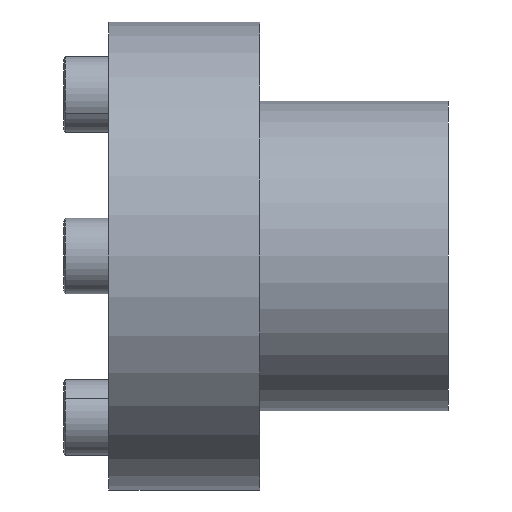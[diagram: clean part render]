
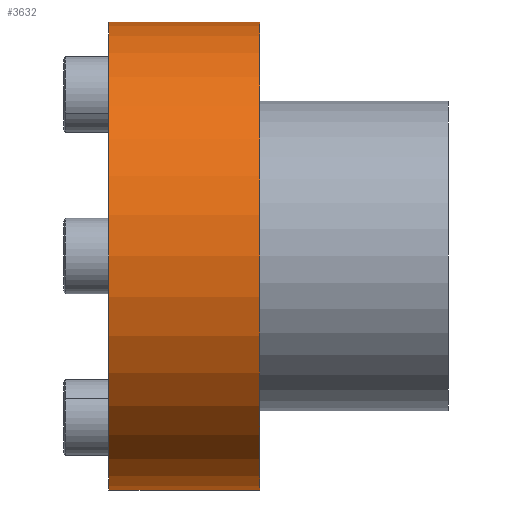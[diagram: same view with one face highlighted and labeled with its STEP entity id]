
A CAD part, front view. The second image highlights one B-rep face of the part: STEP entity #3632.
In plain terms, the highlighted cylindrical face has radius 31 mm (diameter 62 mm), a partial arc.
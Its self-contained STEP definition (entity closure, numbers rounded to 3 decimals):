
#2359 = CARTESIAN_POINT ( 'NONE',  ( 0., 0., -31. ) ) ;
#2360 = DIRECTION ( 'NONE',  ( -1., 0., 0. ) ) ;
#2361 = VECTOR ( 'NONE', #2360, 1000. ) ;
#2362 = CARTESIAN_POINT ( 'NONE',  ( 0., 0., -31. ) ) ;
#2363 = LINE ( 'NONE', #2362, #2361 ) ;
#2364 = CARTESIAN_POINT ( 'NONE',  ( 20., 0., -31. ) ) ;
#2365 = CARTESIAN_POINT ( 'NONE',  ( 20., 0., 31. ) ) ;
#2376 = DIRECTION ( 'NONE',  ( 0., 0., 1. ) ) ;
#2377 = DIRECTION ( 'NONE',  ( -1., 0., 0. ) ) ;
#2378 = CARTESIAN_POINT ( 'NONE',  ( 0., 0., 0. ) ) ;
#2379 = AXIS2_PLACEMENT_3D ( 'NONE', #2378, #2377, #2376 ) ;
#2380 = CIRCLE ( 'NONE', #2379, 31. ) ;
#2454 = DIRECTION ( 'NONE',  ( -1., 0., 0. ) ) ;
#2455 = VECTOR ( 'NONE', #2454, 1000. ) ;
#2456 = CARTESIAN_POINT ( 'NONE',  ( 0., 0., 31. ) ) ;
#2457 = LINE ( 'NONE', #2456, #2455 ) ;
#2458 = CARTESIAN_POINT ( 'NONE',  ( 0., 0., 31. ) ) ;
#2606 = DIRECTION ( 'NONE',  ( 0., 0., 1. ) ) ;
#2607 = DIRECTION ( 'NONE',  ( -1., 0., 0. ) ) ;
#2608 = CARTESIAN_POINT ( 'NONE',  ( 0., 0., 0. ) ) ;
#2609 = AXIS2_PLACEMENT_3D ( 'NONE', #2608, #2607, #2606 ) ;
#2611 = CYLINDRICAL_SURFACE ( 'NONE', #2609, 31. ) ;
#2612 = FACE_OUTER_BOUND ( 'NONE', #3631, .T. ) ;
#2794 = DIRECTION ( 'NONE',  ( 0., 0., 1. ) ) ;
#2795 = DIRECTION ( 'NONE',  ( -1., 0., 0. ) ) ;
#2796 = CARTESIAN_POINT ( 'NONE',  ( 20., 0., 0. ) ) ;
#2797 = AXIS2_PLACEMENT_3D ( 'NONE', #2796, #2795, #2794 ) ;
#2798 = CIRCLE ( 'NONE', #2797, 31. ) ;
#3405 = ORIENTED_EDGE ( 'NONE', *, *, #3472, .F. ) ;
#3459 = EDGE_CURVE ( 'NONE', #3473, #3476, #2380, .T. ) ;
#3469 = VERTEX_POINT ( 'NONE', #2365 ) ;
#3470 = VERTEX_POINT ( 'NONE', #2364 ) ;
#3472 = EDGE_CURVE ( 'NONE', #3470, #3473, #2363, .T. ) ;
#3473 = VERTEX_POINT ( 'NONE', #2359 ) ;
#3476 = VERTEX_POINT ( 'NONE', #2458 ) ;
#3478 = EDGE_CURVE ( 'NONE', #3469, #3476, #2457, .T. ) ;
#3549 = ORIENTED_EDGE ( 'NONE', *, *, #3550, .T. ) ;
#3550 = EDGE_CURVE ( 'NONE', #3470, #3469, #2798, .T. ) ;
#3551 = ORIENTED_EDGE ( 'NONE', *, *, #3478, .T. ) ;
#3552 = ORIENTED_EDGE ( 'NONE', *, *, #3459, .F. ) ;
#3631 = EDGE_LOOP ( 'NONE', ( #3405, #3549, #3551, #3552 ) ) ;
#3632 = ADVANCED_FACE ( 'NONE', ( #2612 ), #2611, .T. ) ;
